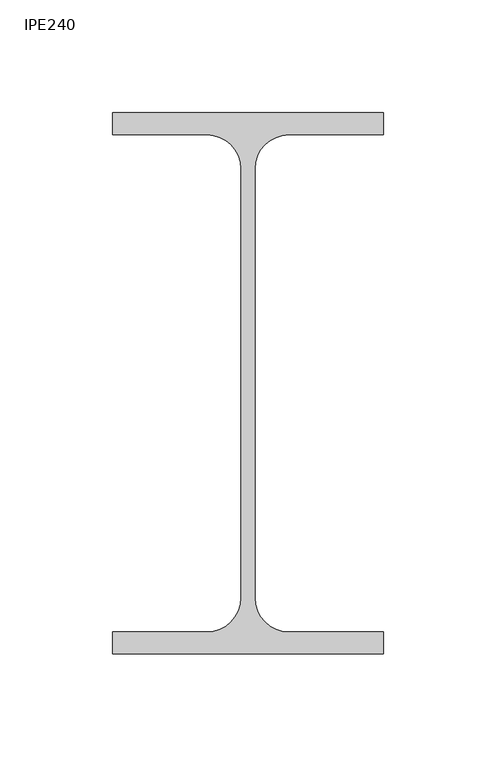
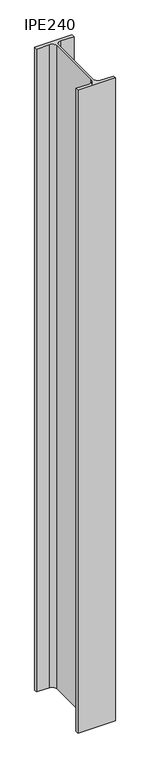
"""IFC4 building model written with IfcOpenShell, lengths in millimetres: column geometry, IPE-Poutrelles-Poteau : IPE240."""

from ifc_helpers import new_model, si_unit, point, frame, frame_2d, origin, place, context, project, spatial, polyline, circle_curve, trimmed, segment, composite_curve, outline, extrude, source, transform, mapped, element, save


def ipe240_2a153a85(model_context):
    return source(origin(), model_context, "Body", "SweptSolid", [
        extrude(outline(composite_curve([segment(polyline([(60.0, 120.0), (60.0, 110.2), (18.1, 110.2)]), True, "CONTINUOUS"), segment(trimmed(circle_curve(frame_2d((18.1, 95.2)), 15.0), [point((18.1, 110.2))], [point((3.1, 95.2))], True, "CARTESIAN"), True, "CONTINUOUS"), segment(polyline([(3.1, 95.2), (3.1, -95.2)]), True, "CONTINUOUS"), segment(trimmed(circle_curve(frame_2d((18.1, -95.2)), 15.0), [point((3.1, -95.2))], [point((18.1, -110.2))], True, "CARTESIAN"), True, "CONTINUOUS"), segment(polyline([(18.1, -110.2), (60.0, -110.2), (60.0, -120.0), (-60.0, -120.0), (-60.0, -110.2), (-18.1, -110.2)]), True, "CONTINUOUS"), segment(trimmed(circle_curve(frame_2d((-18.1, -95.2)), 15.0), [point((-18.1, -110.2))], [point((-3.1, -95.2))], True, "CARTESIAN"), True, "CONTINUOUS"), segment(polyline([(-3.1, -95.2), (-3.1, 95.2)]), True, "CONTINUOUS"), segment(trimmed(circle_curve(frame_2d((-18.1, 95.2)), 15.0), [point((-3.1, 95.2))], [point((-18.1, 110.2))], True, "CARTESIAN"), True, "CONTINUOUS"), segment(polyline([(-18.1, 110.2), (-60.0, 110.2), (-60.0, 120.0), (60.0, 120.0)]), True, "CONTINUOUS")], self_intersect=False)), frame((0.0, 0.0, -250.0), z_axis=(0.0, 0.0, 1.0), x_axis=(1.0, 0.0, 0.0)), (0.0, 0.0, 1.0), 2180.0),
    ])


if __name__ == "__main__":
    model = new_model("IFC4")
    model_context = context("Model", 3, world=origin())
    ifc_project = project(units=[si_unit("LENGTHUNIT", "METRE", prefix="MILLI")], contexts=[model_context])
    site = spatial("IfcSite", under=ifc_project)
    building = spatial("IfcBuilding", under=site)
    placement = place(None, origin())
    ipe240_shape = ipe240_2a153a85(model_context)
    element("IfcColumn", 1, ObjectType="IPE-Poutrelles-Poteau : IPE240", at=placement, inside=building, context=model_context, shape_type="MappedRepresentation", body=[
        mapped(ipe240_shape, transform((0.0, 0.0, 0.0), x_axis=(1.0, 0.0, 0.0), y_axis=(0.0, 1.0, 0.0), z_axis=(0.0, 0.0, 1.0))),
    ])
    save(model, "model.ifc")
